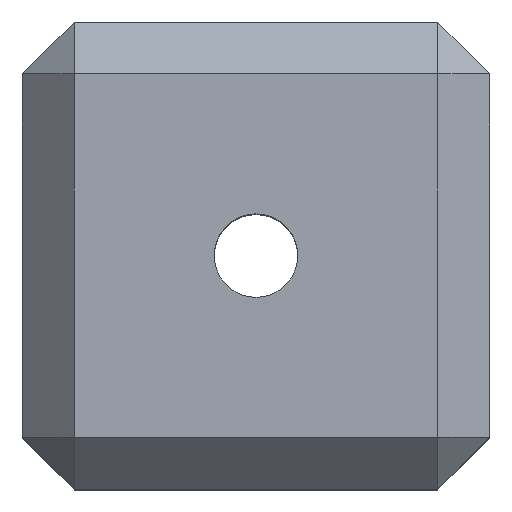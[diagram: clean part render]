
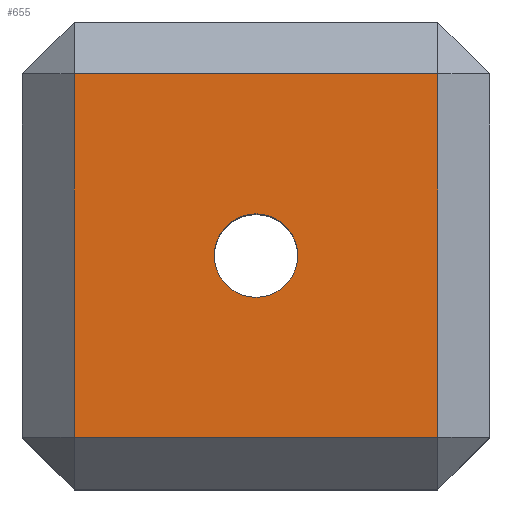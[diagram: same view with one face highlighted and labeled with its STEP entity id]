
A CAD part, top view. The second image highlights one B-rep face of the part: STEP entity #655.
In plain terms, the highlighted planar face has unit normal (0, 0, 1).
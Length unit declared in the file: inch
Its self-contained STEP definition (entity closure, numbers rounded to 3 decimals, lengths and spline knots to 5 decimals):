
#129 = VECTOR ( 'NONE', #810, 39.37008 ) ;
#135 = DIRECTION ( 'NONE',  ( 0., -1., 0. ) ) ;
#145 = CARTESIAN_POINT ( 'NONE',  ( -0.4375, -0.5625, 0.5625 ) ) ;
#293 = CIRCLE ( 'NONE', #1156, 0.1005 ) ;
#336 = CIRCLE ( 'NONE', #1036, 0.1005 ) ;
#351 = VERTEX_POINT ( 'NONE', #1151 ) ;
#358 = EDGE_LOOP ( 'NONE', ( #1458, #880 ) ) ;
#393 = EDGE_CURVE ( 'NONE', #959, #1073, #1583, .T. ) ;
#454 = CARTESIAN_POINT ( 'NONE',  ( 0.4375, -0.4375, 0.5625 ) ) ;
#463 = DIRECTION ( 'NONE',  ( 1., 0., 0. ) ) ;
#543 = VECTOR ( 'NONE', #463, 39.37008 ) ;
#564 = CARTESIAN_POINT ( 'NONE',  ( -0.4375, 0.4375, 0.5625 ) ) ;
#576 = CARTESIAN_POINT ( 'NONE',  ( -0.5625, 0.4375, 0.5625 ) ) ;
#577 = LINE ( 'NONE', #145, #1790 ) ;
#655 = ADVANCED_FACE ( 'NONE', ( #1165, #895 ), #1825, .T. ) ;
#684 = EDGE_CURVE ( 'NONE', #764, #351, #336, .T. ) ;
#689 = LINE ( 'NONE', #931, #543 ) ;
#733 = CARTESIAN_POINT ( 'NONE',  ( 0.4375, 0.4375, 0.5625 ) ) ;
#748 = CARTESIAN_POINT ( 'NONE',  ( -0.4375, -0.4375, 0.5625 ) ) ;
#764 = VERTEX_POINT ( 'NONE', #1695 ) ;
#774 = CARTESIAN_POINT ( 'NONE',  ( 0.4375, 0.5625, 0.5625 ) ) ;
#810 = DIRECTION ( 'NONE',  ( 0., 1., 0. ) ) ;
#859 = CARTESIAN_POINT ( 'NONE',  ( 0., 0., 0.5625 ) ) ;
#880 = ORIENTED_EDGE ( 'NONE', *, *, #684, .F. ) ;
#895 = FACE_BOUND ( 'NONE', #358, .T. ) ;
#931 = CARTESIAN_POINT ( 'NONE',  ( 0.5625, -0.4375, 0.5625 ) ) ;
#942 = EDGE_CURVE ( 'NONE', #1463, #959, #1615, .T. ) ;
#947 = AXIS2_PLACEMENT_3D ( 'NONE', #859, #1798, #1799 ) ;
#959 = VERTEX_POINT ( 'NONE', #733 ) ;
#1036 = AXIS2_PLACEMENT_3D ( 'NONE', #1733, #1736, #1725 ) ;
#1073 = VERTEX_POINT ( 'NONE', #564 ) ;
#1114 = EDGE_CURVE ( 'NONE', #1422, #1463, #689, .T. ) ;
#1151 = CARTESIAN_POINT ( 'NONE',  ( 0.1005, 0., 0.5625 ) ) ;
#1156 = AXIS2_PLACEMENT_3D ( 'NONE', #1793, #1788, #1785 ) ;
#1165 = FACE_OUTER_BOUND ( 'NONE', #1207, .T. ) ;
#1207 = EDGE_LOOP ( 'NONE', ( #1354, #1380, #1403, #1431 ) ) ;
#1264 = VECTOR ( 'NONE', #1434, 39.37008 ) ;
#1310 = EDGE_CURVE ( 'NONE', #1073, #1422, #577, .T. ) ;
#1354 = ORIENTED_EDGE ( 'NONE', *, *, #1310, .T. ) ;
#1380 = ORIENTED_EDGE ( 'NONE', *, *, #1114, .T. ) ;
#1403 = ORIENTED_EDGE ( 'NONE', *, *, #942, .T. ) ;
#1422 = VERTEX_POINT ( 'NONE', #748 ) ;
#1431 = ORIENTED_EDGE ( 'NONE', *, *, #393, .T. ) ;
#1434 = DIRECTION ( 'NONE',  ( -1., 0., 0. ) ) ;
#1458 = ORIENTED_EDGE ( 'NONE', *, *, #1477, .F. ) ;
#1463 = VERTEX_POINT ( 'NONE', #454 ) ;
#1477 = EDGE_CURVE ( 'NONE', #351, #764, #293, .T. ) ;
#1583 = LINE ( 'NONE', #576, #1264 ) ;
#1615 = LINE ( 'NONE', #774, #129 ) ;
#1695 = CARTESIAN_POINT ( 'NONE',  ( -0.1005, 0., 0.5625 ) ) ;
#1725 = DIRECTION ( 'NONE',  ( 1., 0., 0. ) ) ;
#1733 = CARTESIAN_POINT ( 'NONE',  ( 0., 0., 0.5625 ) ) ;
#1736 = DIRECTION ( 'NONE',  ( 0., 0., 1. ) ) ;
#1785 = DIRECTION ( 'NONE',  ( 1., 0., 0. ) ) ;
#1788 = DIRECTION ( 'NONE',  ( 0., 0., 1. ) ) ;
#1790 = VECTOR ( 'NONE', #135, 39.37008 ) ;
#1793 = CARTESIAN_POINT ( 'NONE',  ( 0., 0., 0.5625 ) ) ;
#1798 = DIRECTION ( 'NONE',  ( 0., 0., 1. ) ) ;
#1799 = DIRECTION ( 'NONE',  ( 1., 0., 0. ) ) ;
#1825 = PLANE ( 'NONE',  #947 ) ;
